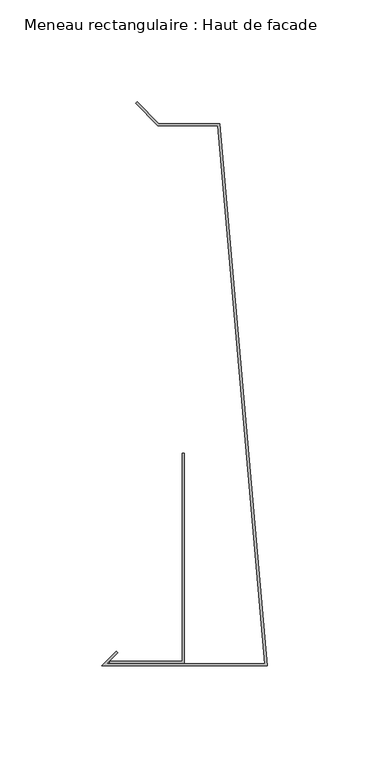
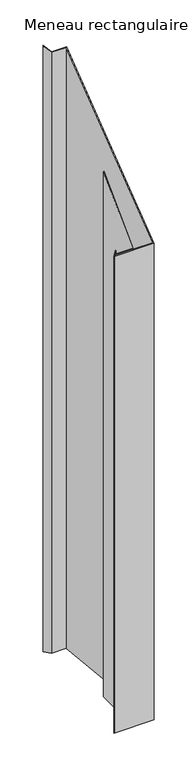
"""IFC4 building model written with IfcOpenShell, lengths in millimetres: member geometry, Meneau rectangulaire : Haut de facade."""

from ifc_helpers import new_model, si_unit, origin, place, context, project, spatial, faceted_brep, source, transform, mapped, element, save


def meneau_rectangulaire_haut_de_facade_1b22ee8f(model_context):
    return source(origin(), model_context, "Body", "Brep", [
        faceted_brep([(-24.0647895, 160.703755, -1120.0), (-53.5626719, 160.703755, -1120.0), (-64.4621669, 171.6032499, -1120.0), (-63.7550601, 172.3103567, -1120.0), (-53.1484584, 161.703755, -1120.0), (-23.1484584, 161.703755, -1120.0), (0.0, -104.2, -1120.0), (-81.0, -104.2, -1120.0), (-73.9289322, -97.1289322, -1120.0), (-73.2218254, -97.836039, -1120.0), (-78.5857864, -103.2, -1120.0), (-1.0913085, -103.2, -1120.0), (-1.0913085, -103.2, -103.2), (-24.0647895, 160.703755, 160.703755), (-78.5857864, -103.2, -103.2), (-73.2218254, -97.836039, -97.836039), (-73.9289322, -97.1289322, -97.1289322), (-81.0, -104.2, -104.2), (0.0, -104.2, -104.2), (-23.1484584, 161.703755, 161.703755), (-53.1484584, 161.703755, 161.703755), (-63.7550601, 172.3103567, 172.3103567), (-64.4621669, 171.6032499, 171.6032499), (-53.5626719, 160.703755, 160.703755)], [[[0, 1, 2, 3, 4, 5, 6, 7, 8, 9, 10, 11]], [[12, 13, 0, 11]], [[14, 12, 11, 10]], [[15, 14, 10, 9]], [[16, 15, 9, 8]], [[17, 16, 8, 7]], [[18, 17, 7, 6]], [[19, 18, 6, 5]], [[20, 19, 5, 4]], [[21, 20, 4, 3]], [[22, 21, 3, 2]], [[23, 22, 2, 1]], [[13, 23, 1, 0]], [[13, 12, 14, 15, 16, 17, 18, 19, 20, 21, 22, 23]]]),
        faceted_brep([(-40.5477541, -102.9846816, -1120.0), (-77.0752814, -102.9846816, -1120.0), (-77.0752814, -101.9846816, -1120.0), (-41.5477541, -101.9846816, -1120.0), (-41.5477541, -0.0384227, -1120.0), (-40.5477541, -0.0384227, -1120.0), (-40.5477541, -0.0384227, -0.0384227), (-40.5477541, -102.9846816, -102.9846816), (-41.5477541, -0.0384227, -0.0384227), (-41.5477541, -101.9846816, -101.9846816), (-77.0752814, -101.9846816, -101.9846816), (-77.0752814, -102.9846816, -102.9846816)], [[[0, 1, 2, 3, 4, 5]], [[6, 7, 0, 5]], [[8, 6, 5, 4]], [[9, 8, 4, 3]], [[10, 9, 3, 2]], [[11, 10, 2, 1]], [[7, 11, 1, 0]], [[7, 6, 8, 9, 10, 11]]]),
    ])


if __name__ == "__main__":
    model = new_model("IFC4")
    model_context = context("Model", 3, world=origin())
    ifc_project = project(units=[si_unit("LENGTHUNIT", "METRE", prefix="MILLI")], contexts=[model_context])
    site = spatial("IfcSite", under=ifc_project)
    building = spatial("IfcBuilding", under=site)
    placement = place(None, origin())
    meneau_rectangulaire_haut_de_facade_shape = meneau_rectangulaire_haut_de_facade_1b22ee8f(model_context)
    element("IfcMember", 1, ObjectType="Meneau rectangulaire : Haut de facade", at=placement, inside=building, context=model_context, shape_type="MappedRepresentation", body=[
        mapped(meneau_rectangulaire_haut_de_facade_shape, transform((0.0, 0.0, 0.0), x_axis=(1.0, 0.0, 0.0), y_axis=(0.0, 1.0, 0.0), z_axis=(0.0, 0.0, 1.0))),
    ])
    save(model, "model.ifc")
